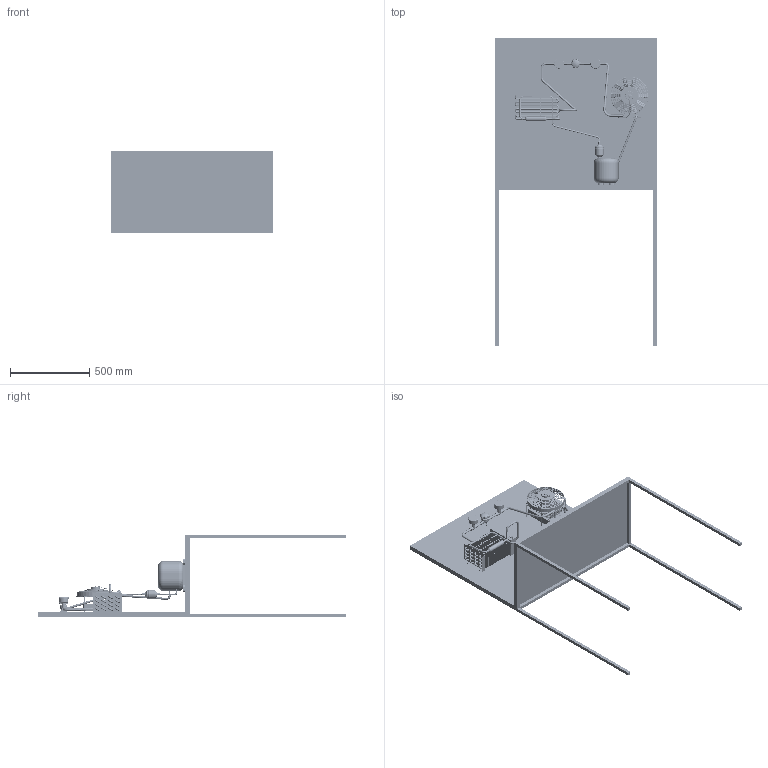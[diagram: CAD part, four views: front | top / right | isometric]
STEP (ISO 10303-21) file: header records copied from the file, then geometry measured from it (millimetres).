
FILE_DESCRIPTION(/* description */ (''),/* implementation_level */ '2;1');
FILE_NAME(/* name */ 'C:\Users\18907419\Desktop\frigo_basic\tavolo_frigo_basic.stp',/* time_stamp */ '2025-02-28T11:44:16+01:00',/* author */ ('18907419'),/* organization */ (''),/* preprocessor_version */ 'ST-DEVELOPER v18.1',/* originating_system */ 'Autodesk Inventor 2022',/* authorisation */ '');
FILE_SCHEMA (('AUTOMOTIVE_DESIGN { 1 0 10303 214 3 1 1 }'));
Products named in the file (29): tavolo; Frame 1740559699060; Skeleton 1740559699061; ISO 1035/2 - 20 x 20 - 1020; ISO 1035/2 - 20 x 20 - 520; ISO 1035/2 - 20 x 20 - 1020_1; ISO 1035/2 - 20 x 20 - 520_1; ISO 1035/2 - 20 x 20 - 1010; ISO 1035/2 - 20 x 20 - 1010_1; ISO 1035/2 - 20 x 20 - 1010_2; ISO 1035/2 - 20 x 20 - 1010_3; ISO 1035/2 - 20 x 20 - 1020_2; ISO 1035/2 - 20 x 20 - 939,69; ISO 1035/2 - 20 x 20 - 939,69_1; piano_v; 160620 compressor; Alphacool NexXxoS XT45 180mm Single; Copie de Alphacool NexXxoS XT45 180mm Single^Alphacool NexXxoS XT45 1
80mm Single; Copie de Jupe^Alphacool NexXxoS XT45 180mm Single; Copie de Ailette v2^Alphacool NexXxoS XT45 180mm Single; Bitspower_G14-1-2; Bouchon; 001.001.00009; DML 052; BML12S - 1-2in; evaporatore.step; tubi; raccordi_t; Manômetro 7 bar
Assembly tree (46 placements, depth 3):
  tavolo
    Frame 1740559699060
      Skeleton 1740559699061
      ISO 1035/2 - 20 x 20 - 1020
      ISO 1035/2 - 20 x 20 - 520
      ISO 1035/2 - 20 x 20 - 1020_1
      ISO 1035/2 - 20 x 20 - 520_1
      ISO 1035/2 - 20 x 20 - 1010
      ISO 1035/2 - 20 x 20 - 1010_1
      ISO 1035/2 - 20 x 20 - 1010_2
      ISO 1035/2 - 20 x 20 - 1010_3
      ISO 1035/2 - 20 x 20 - 1020_2
      ISO 1035/2 - 20 x 20 - 939,69
      ISO 1035/2 - 20 x 20 - 939,69_1
    piano_v
    160620 compressor
    Alphacool NexXxoS XT45 180mm Single
      Copie de Alphacool NexXxoS XT45 180mm Single^Alphacool NexXxoS XT45 1
80mm Single
      Copie de Jupe^Alphacool NexXxoS XT45 180mm Single
      Copie de Ailette v2^Alphacool NexXxoS XT45 180mm Single  x15
      Bouchon  x2
      Bitspower_G14-1-2  x2
    001.001.00009
    DML 052
    BML12S - 1-2in
    evaporatore.step
    tubi
    raccordi_t  x2
    Manômetro 7 bar  x2
Bounding box: 1020 x 1949.69 x 520 mm (x, y, z)
Volume: 24967787.5 mm3; surface area: 7291391.6 mm2
Topology: 152 solids, 156 shells, 8896 faces, 24899 edges, 16335 vertices
Faces by surface type: cylinder 4264, plane 3740, bspline 519, torus 206, cone 103, sphere 64
Full cylindrical faces by diameter (mm): 1.23 x2, 2.016 x2, 2.4 x2, 2.7 x2, 3.4 x8, 4.459 x2, 4.51 x2, 5 x2, 5.5 x2, 6 x4, 6.35 x1, 7 x72, 8.6 x2, 9.525 x2, 10 x1701, 10.16 x4, 11.445 x4, 11.684 x2, 12 x5, 12.57 x2, 12.7 x4, 12.85 x2, 12.954 x7, 13.157 x4, 13.78 x14, 15.445 x4, 16 x6, 18 x2, 18.331 x4, 20 x8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
Entity records: 203967 total; most frequent: CARTESIAN_POINT 63124, DIRECTION 28421, ORIENTED_EDGE 27704, EDGE_CURVE 13852, AXIS2_PLACEMENT_3D 11017, VERTEX_POINT 9026, EDGE_LOOP 8924, LINE 6387
